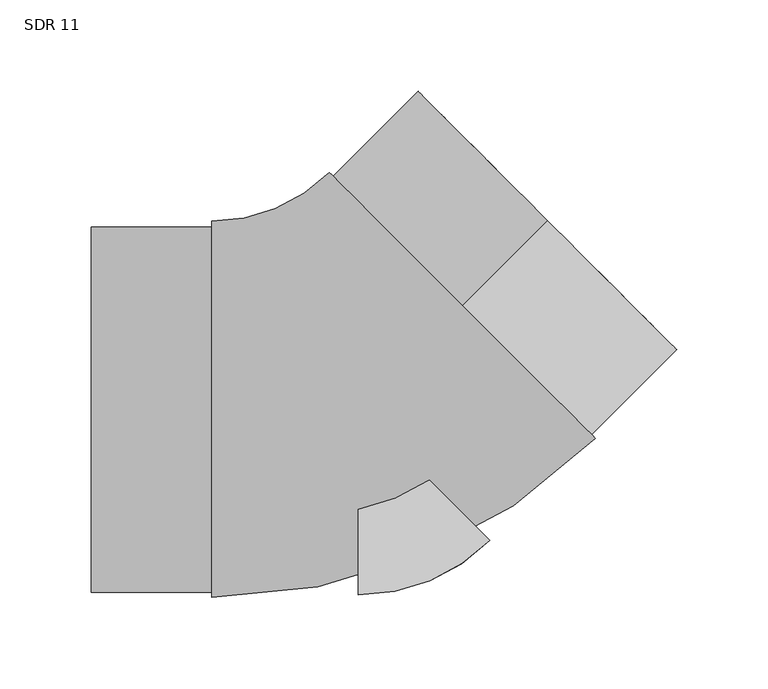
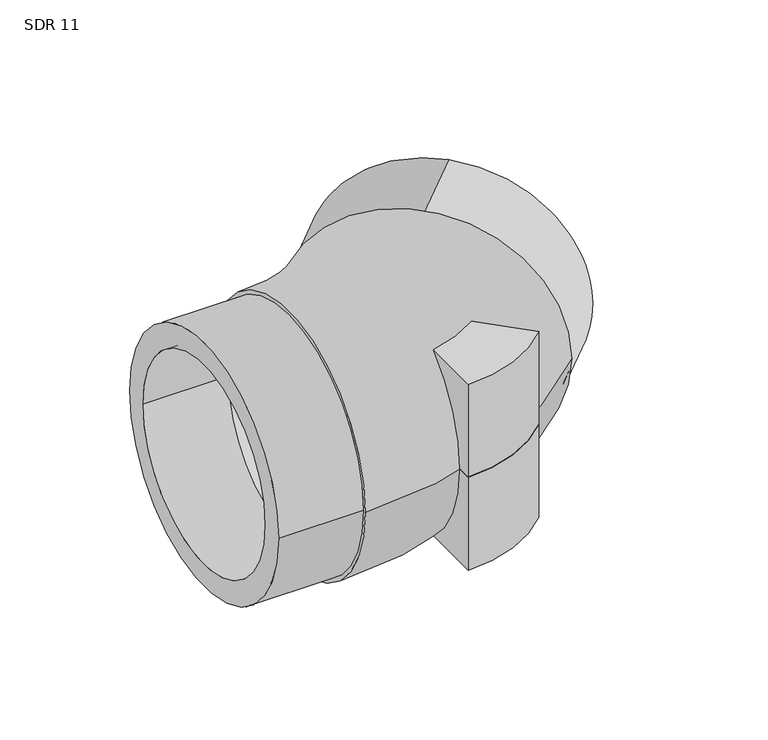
"""IFC4 building model written with IfcOpenShell, lengths in millimetres: pipe fitting geometry, Aquatherm - Elbow BW Molded : SDR 11."""

from ifc_helpers import new_model, si_unit, point, frame, frame_2d, origin, origin_with_axes, origin_2d, place, context, project, spatial, polyline, circle_curve, ellipse_curve, trimmed, segment, composite_curve, outline, extrude, source, transform, mapped, element, save
from ifc_brep_helpers import plane_surface, revolved_surface, advanced_brep


def sdr_11_e0211799(model_context):
    return source(origin(), model_context, "Body", "SolidModel", [
        extrude(outline(composite_curve([segment(polyline([(0.0, -101.6), (0.0, 0.0), (71.8455185, -71.8385793)]), True, "CONTINUOUS"), segment(trimmed(circle_curve(origin_2d(), 101.6), [point((71.8455185, -71.8385793))], [point((0.0, -101.6))], False, "CARTESIAN"), True, "CONTINUOUS")], self_intersect=False)), frame((0.0, 0.0, -76.2), z_axis=(0.0, 0.0, 1.0), x_axis=(1.0, 0.0, 0.0)), (0.0, 0.0, 1.0), 76.2),
        extrude(outline(composite_curve([segment(trimmed(circle_curve(origin_2d(), 101.6), [point((71.8455185, -71.8385793))], [point((0.0, -101.6))], False, "CARTESIAN"), True, "CONTINUOUS"), segment(polyline([(0.0, -101.6), (0.0, 0.0), (71.8455185, -71.8385793)]), True, "CONTINUOUS")], self_intersect=False)), origin_with_axes(), (0.0, 0.0, 1.0), 76.2),
        extrude(outline(composite_curve([segment(trimmed(circle_curve(frame_2d((0.0, -99.949)), 99.949), [point((0.0, -199.898))], [point((0.0, 0.0))], False, "CARTESIAN"), True, "CONTINUOUS"), segment(trimmed(circle_curve(frame_2d((0.0, -99.949)), 99.949), [point((0.0, 0.0))], [point((0.0, -199.898))], False, "CARTESIAN"), True, "CONTINUOUS")], self_intersect=False), holes=[composite_curve([segment(trimmed(circle_curve(frame_2d((0.0, -99.949)), 81.7764545), [point((0.0, -181.7254545))], [point((0.0, -18.1725455))], True, "CARTESIAN"), True, "CONTINUOUS"), segment(trimmed(circle_curve(frame_2d((0.0, -99.949)), 81.7764545), [point((0.0, -18.1725455))], [point((0.0, -181.7254545))], True, "CARTESIAN"), True, "CONTINUOUS")], self_intersect=False)]), frame((56.7973768, 56.802863, 99.949), z_axis=(0.7070726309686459, 0.7071409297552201, 0.0), x_axis=(-0.7071409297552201, 0.7070726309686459, 0.0)), (0.0, 0.0, 1.0), 65.7225),
        extrude(outline(composite_curve([segment(trimmed(circle_curve(frame_2d((-0.1496481, 0.0)), 99.949), [point((99.7993519, 0.0))], [point((-100.0986481, 0.0))], False, "CARTESIAN"), True, "CONTINUOUS"), segment(trimmed(circle_curve(frame_2d((-0.1496481, 0.0)), 99.949), [point((-100.0986481, 0.0))], [point((99.7993519, 0.0))], False, "CARTESIAN"), True, "CONTINUOUS")], self_intersect=False), holes=[composite_curve([segment(trimmed(circle_curve(origin_2d(), 81.7764545), [point((81.7764545, 0.0))], [point((-81.7764545, 0.0))], True, "CARTESIAN"), True, "CONTINUOUS"), segment(trimmed(circle_curve(origin_2d(), 81.7764545), [point((-81.7764545, 0.0))], [point((81.7764545, 0.0))], True, "CARTESIAN"), True, "CONTINUOUS")], self_intersect=False)]), frame((-146.05, 0.0, 0.0), z_axis=(1.0, 0.0, 0.0), x_axis=(0.0, 1.0, 0.0)), (0.0, 0.0, 1.0), 65.7225),
        advanced_brep(
        [(-80.3275, -102.94747, 0.0), (-80.3275, 102.94747, 0.0), (-80.3275, -81.7764545, 0.0), (-80.3275, 81.7764545, 0.0), (129.5957464, -15.9884754, 0.0), (-16.0009929, 129.5942015, 0.0), (114.6248549, -1.0190298, 0.0), (-1.0301013, 114.6247559, 0.0)],
        [
            (0, 1, circle_curve(frame((-80.3275, 0.0, 0.0), z_axis=(-1.0, 0.0, 0.0), x_axis=(0.0, 1.0, 0.0)), 102.94747)),
            (1, 0, circle_curve(frame((-80.3275, 0.0, 0.0), z_axis=(-1.0, 0.0, 0.0), x_axis=(0.0, 1.0, 0.0)), 102.94747)),
            (2, 3, circle_curve(frame((-80.3275, 0.0, 0.0), z_axis=(1.0, 0.0, 0.0), x_axis=(0.0, 1.0, 0.0)), 81.7764545)),
            (3, 2, circle_curve(frame((-80.3275, 0.0, 0.0), z_axis=(1.0, 0.0, 0.0), x_axis=(0.0, 1.0, 0.0)), 81.7764545)),
            (4, 5, circle_curve(frame((56.7973768, 56.802863, 0.0), z_axis=(0.707072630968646, 0.7071409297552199, 0.0), x_axis=(-0.7071409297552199, 0.707072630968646, 0.0)), 102.94747)),
            (5, 4, circle_curve(frame((56.7973768, 56.802863, 0.0), z_axis=(0.707072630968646, 0.7071409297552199, 0.0), x_axis=(-0.7071409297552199, 0.707072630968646, 0.0)), 102.94747)),
            (6, 7, circle_curve(frame((56.7973768, 56.802863, 0.0), z_axis=(-0.707072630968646, -0.7071409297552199, 0.0), x_axis=(-0.7071409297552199, 0.707072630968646, 0.0)), 81.7764545)),
            (7, 6, circle_curve(frame((56.7973768, 56.802863, 0.0), z_axis=(-0.707072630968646, -0.7071409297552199, 0.0), x_axis=(-0.7071409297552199, 0.707072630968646, 0.0)), 81.7764545)),
            (5, 1, circle_curve(frame((-80.3275, 193.9144957, 0.0), z_axis=(0.0, 0.0, -1.0), x_axis=(0.0, -1.0, 0.0)), 90.9670257)),
            (0, 4, circle_curve(frame((-80.3275, 193.9144957, 0.0), z_axis=(0.0, 0.0, 1.0), x_axis=(0.0, -1.0, 0.0)), 296.8619657)),
            (7, 3, circle_curve(frame((-80.3275, 193.9144957, 0.0), z_axis=(0.0, 0.0, -1.0), x_axis=(0.0, -1.0, 0.0)), 112.1380411)),
            (2, 6, circle_curve(frame((-80.3275, 193.9144957, 0.0), z_axis=(0.0, 0.0, 1.0), x_axis=(0.0, -1.0, 0.0)), 275.6909502)),
        ],
        [
            plane_surface(frame((-80.3275, 0.0, 0.0), z_axis=(-1.0, 0.0, 0.0), x_axis=(0.0, 0.0, 1.0))),
            plane_surface(frame((56.7973768, 56.802863, 0.0), z_axis=(0.7070726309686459, 0.70714092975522, 0.0), x_axis=(0.0, 0.0, 1.0))),
            revolved_surface(trimmed(ellipse_curve(frame((-80.3275, 0.0, 0.0), z_axis=(-1.0, 0.0, 0.0), x_axis=(0.0, 1.0, 0.0)), 102.94747, 102.94747), [point((-80.3275, -102.94747, 0.0))], [point((-80.3275, 102.94747, 0.0))], True, "CARTESIAN"), (-80.3275, 193.9144957, 0.0), (0.0, 0.0, 1.0)),
            revolved_surface(trimmed(ellipse_curve(frame((-80.3275, 0.0, 0.0), z_axis=(-1.0, 0.0, 0.0), x_axis=(0.0, 1.0, 0.0)), 102.94747, 102.94747), [point((-80.3275, 102.94747, 0.0))], [point((-80.3275, -102.94747, 0.0))], True, "CARTESIAN"), (-80.3275, 193.9144957, 0.0), (0.0, 0.0, 1.0)),
            revolved_surface(trimmed(ellipse_curve(frame((-80.3275, 0.0, 0.0), z_axis=(1.0, 0.0, 0.0), x_axis=(0.0, 1.0, 0.0)), 81.7764545, 81.7764545), [point((-80.3275, -81.7764545, 0.0))], [point((-80.3275, 81.7764545, 0.0))], True, "CARTESIAN"), (-80.3275, 193.9144957, 0.0), (0.0, 0.0, 1.0)),
            revolved_surface(trimmed(ellipse_curve(frame((-80.3275, 0.0, 0.0), z_axis=(1.0, 0.0, 0.0), x_axis=(0.0, 1.0, 0.0)), 81.7764545, 81.7764545), [point((-80.3275, 81.7764545, 0.0))], [point((-80.3275, -81.7764545, 0.0))], True, "CARTESIAN"), (-80.3275, 193.9144957, 0.0), (0.0, 0.0, 1.0)),
        ],
        [
            (0, [[1, 2], [3, 4]]),
            (1, [[5, 6], [7, 8]]),
            (2, [[9, -1, 10, -6]]),
            (3, [[-10, -2, -9, -5]]),
            (4, [[11, -3, 12, -8]]),
            (5, [[-12, -4, -11, -7]]),
        ],
    ),
    ])


if __name__ == "__main__":
    model = new_model("IFC4")
    model_context = context("Model", 3, world=origin())
    ifc_project = project(units=[si_unit("LENGTHUNIT", "METRE", prefix="MILLI")], contexts=[model_context])
    site = spatial("IfcSite", under=ifc_project)
    building = spatial("IfcBuilding", under=site)
    placement = place(None, origin())
    sdr_11_shape = sdr_11_e0211799(model_context)
    element("IfcPipeFitting", 1, ObjectType="Aquatherm - Elbow BW Molded : SDR 11", at=placement, inside=building, context=model_context, shape_type="MappedRepresentation", body=[
        mapped(sdr_11_shape, transform((0.0, 0.0, 0.0), x_axis=(1.0, 0.0, 0.0), y_axis=(0.0, 1.0, 0.0), z_axis=(0.0, 0.0, 1.0))),
    ])
    save(model, "model.ifc")
